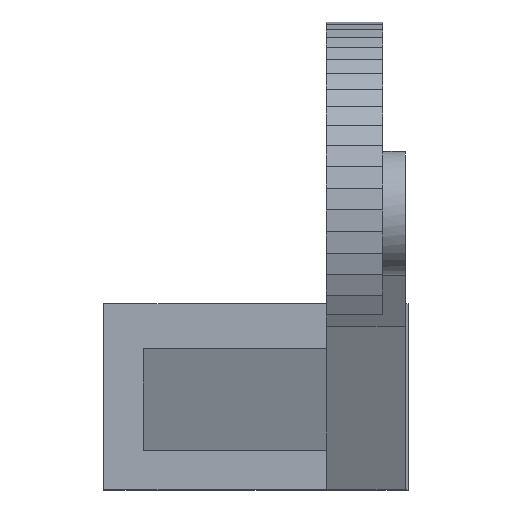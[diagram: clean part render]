
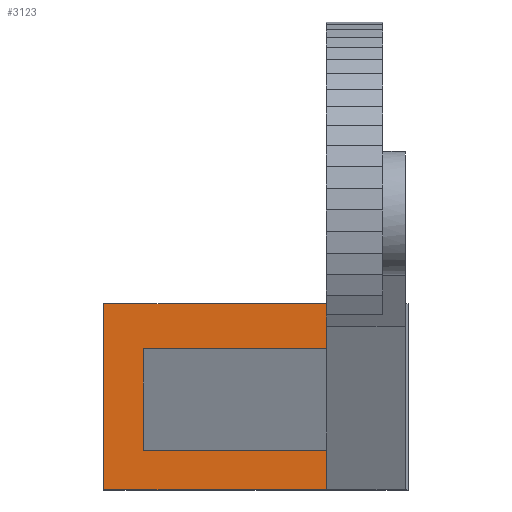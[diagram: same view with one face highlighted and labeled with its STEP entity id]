
A CAD part, top view. The second image highlights one B-rep face of the part: STEP entity #3123.
In plain terms, the highlighted planar face has unit normal (0, 0, 1).
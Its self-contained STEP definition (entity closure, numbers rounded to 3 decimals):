
#104 = PLANE('',#105);
#105 = AXIS2_PLACEMENT_3D('',#106,#107,#108);
#106 = CARTESIAN_POINT('',(6.5,0.,0.));
#107 = DIRECTION('',(1.,0.,0.));
#108 = DIRECTION('',(-0.,0.,1.));
#318 = PLANE('',#319);
#319 = AXIS2_PLACEMENT_3D('',#320,#321,#322);
#320 = CARTESIAN_POINT('',(6.5,-49.,-34.));
#321 = DIRECTION('',(0.,-1.,0.));
#322 = DIRECTION('',(0.,0.,1.));
#371 = PLANE('',#372);
#372 = AXIS2_PLACEMENT_3D('',#373,#374,#375);
#373 = CARTESIAN_POINT('',(-33.,-16.,-58.));
#374 = DIRECTION('',(0.,1.,0.));
#375 = DIRECTION('',(0.,0.,1.));
#609 = PLANE('',#610);
#610 = AXIS2_PLACEMENT_3D('',#611,#612,#613);
#611 = CARTESIAN_POINT('',(-27.,-24.,-30.5));
#612 = DIRECTION('',(-0.441,0.,0.898));
#613 = DIRECTION('',(0.898,0.,0.441));
#621 = VERTEX_POINT('',#622);
#622 = CARTESIAN_POINT('',(6.5,-24.,-30.));
#635 = PLANE('',#636);
#636 = AXIS2_PLACEMENT_3D('',#637,#638,#639);
#637 = CARTESIAN_POINT('',(-7.033,-24.,-25.417));
#638 = DIRECTION('',(0.,1.,0.));
#639 = DIRECTION('',(0.,-0.,1.));
#646 = EDGE_CURVE('',#647,#621,#649,.T.);
#647 = VERTEX_POINT('',#648);
#648 = CARTESIAN_POINT('',(6.5,-16.,-30.));
#649 = SURFACE_CURVE('',#650,(#654,#660),.PCURVE_S1.);
#650 = LINE('',#651,#652);
#651 = CARTESIAN_POINT('',(6.5,-24.5,-30.));
#652 = VECTOR('',#653,1.);
#653 = DIRECTION('',(0.,-1.,0.));
#654 = PCURVE('',#104,#655);
#655 = DEFINITIONAL_REPRESENTATION('',(#656),#659);
#656 = B_SPLINE_CURVE_WITH_KNOTS('',1,(#657,#658),.UNSPECIFIED.,.F.,.F.,
  (2,2),(-8.5,24.5),.PIECEWISE_BEZIER_KNOTS.);
#657 = CARTESIAN_POINT('',(-30.,16.));
#658 = CARTESIAN_POINT('',(-30.,49.));
#659 = ( GEOMETRIC_REPRESENTATION_CONTEXT(2) 
PARAMETRIC_REPRESENTATION_CONTEXT() REPRESENTATION_CONTEXT('2D SPACE',''
  ) );
#660 = PCURVE('',#661,#666);
#661 = PLANE('',#662);
#662 = AXIS2_PLACEMENT_3D('',#663,#664,#665);
#663 = CARTESIAN_POINT('',(-33.,-49.,-30.));
#664 = DIRECTION('',(0.,0.,1.));
#665 = DIRECTION('',(1.,0.,0.));
#666 = DEFINITIONAL_REPRESENTATION('',(#667),#670);
#667 = B_SPLINE_CURVE_WITH_KNOTS('',1,(#668,#669),.UNSPECIFIED.,.F.,.F.,
  (2,2),(-8.5,24.5),.PIECEWISE_BEZIER_KNOTS.);
#668 = CARTESIAN_POINT('',(39.5,33.));
#669 = CARTESIAN_POINT('',(39.5,0.));
#670 = ( GEOMETRIC_REPRESENTATION_CONTEXT(2) 
PARAMETRIC_REPRESENTATION_CONTEXT() REPRESENTATION_CONTEXT('2D SPACE',''
  ) );
#2033 = PLANE('',#2034);
#2034 = AXIS2_PLACEMENT_3D('',#2035,#2036,#2037);
#2035 = CARTESIAN_POINT('',(6.5,0.,0.));
#2036 = DIRECTION('',(1.,0.,0.));
#2037 = DIRECTION('',(-0.,0.,1.));
#2129 = PLANE('',#2130);
#2130 = AXIS2_PLACEMENT_3D('',#2131,#2132,#2133);
#2131 = CARTESIAN_POINT('',(-7.033,-42.,-25.417));
#2132 = DIRECTION('',(0.,1.,0.));
#2133 = DIRECTION('',(0.,-0.,1.));
#2202 = VERTEX_POINT('',#2203);
#2203 = CARTESIAN_POINT('',(-33.,-16.,-30.));
#2217 = PLANE('',#2218);
#2218 = AXIS2_PLACEMENT_3D('',#2219,#2220,#2221);
#2219 = CARTESIAN_POINT('',(-33.,-49.,-58.));
#2220 = DIRECTION('',(1.,0.,0.));
#2221 = DIRECTION('',(0.,0.,1.));
#2229 = EDGE_CURVE('',#2202,#647,#2230,.T.);
#2230 = SURFACE_CURVE('',#2231,(#2235,#2242),.PCURVE_S1.);
#2231 = LINE('',#2232,#2233);
#2232 = CARTESIAN_POINT('',(-33.,-16.,-30.));
#2233 = VECTOR('',#2234,1.);
#2234 = DIRECTION('',(1.,0.,0.));
#2235 = PCURVE('',#371,#2236);
#2236 = DEFINITIONAL_REPRESENTATION('',(#2237),#2241);
#2237 = LINE('',#2238,#2239);
#2238 = CARTESIAN_POINT('',(28.,0.));
#2239 = VECTOR('',#2240,1.);
#2240 = DIRECTION('',(0.,1.));
#2241 = ( GEOMETRIC_REPRESENTATION_CONTEXT(2) 
PARAMETRIC_REPRESENTATION_CONTEXT() REPRESENTATION_CONTEXT('2D SPACE',''
  ) );
#2242 = PCURVE('',#661,#2243);
#2243 = DEFINITIONAL_REPRESENTATION('',(#2244),#2248);
#2244 = LINE('',#2245,#2246);
#2245 = CARTESIAN_POINT('',(0.,33.));
#2246 = VECTOR('',#2247,1.);
#2247 = DIRECTION('',(1.,0.));
#2248 = ( GEOMETRIC_REPRESENTATION_CONTEXT(2) 
PARAMETRIC_REPRESENTATION_CONTEXT() REPRESENTATION_CONTEXT('2D SPACE',''
  ) );
#2278 = VERTEX_POINT('',#2279);
#2279 = CARTESIAN_POINT('',(6.5,-49.,-30.));
#2300 = EDGE_CURVE('',#2301,#2278,#2303,.T.);
#2301 = VERTEX_POINT('',#2302);
#2302 = CARTESIAN_POINT('',(-33.,-49.,-30.));
#2303 = SURFACE_CURVE('',#2304,(#2308,#2315),.PCURVE_S1.);
#2304 = LINE('',#2305,#2306);
#2305 = CARTESIAN_POINT('',(-33.,-49.,-30.));
#2306 = VECTOR('',#2307,1.);
#2307 = DIRECTION('',(1.,0.,0.));
#2308 = PCURVE('',#318,#2309);
#2309 = DEFINITIONAL_REPRESENTATION('',(#2310),#2314);
#2310 = LINE('',#2311,#2312);
#2311 = CARTESIAN_POINT('',(4.,39.5));
#2312 = VECTOR('',#2313,1.);
#2313 = DIRECTION('',(0.,-1.));
#2314 = ( GEOMETRIC_REPRESENTATION_CONTEXT(2) 
PARAMETRIC_REPRESENTATION_CONTEXT() REPRESENTATION_CONTEXT('2D SPACE',''
  ) );
#2315 = PCURVE('',#661,#2316);
#2316 = DEFINITIONAL_REPRESENTATION('',(#2317),#2321);
#2317 = LINE('',#2318,#2319);
#2318 = CARTESIAN_POINT('',(0.,0.));
#2319 = VECTOR('',#2320,1.);
#2320 = DIRECTION('',(1.,0.));
#2321 = ( GEOMETRIC_REPRESENTATION_CONTEXT(2) 
PARAMETRIC_REPRESENTATION_CONTEXT() REPRESENTATION_CONTEXT('2D SPACE',''
  ) );
#2957 = VERTEX_POINT('',#2958);
#2958 = CARTESIAN_POINT('',(-25.982,-24.,-30.));
#2979 = EDGE_CURVE('',#2957,#2980,#2982,.T.);
#2980 = VERTEX_POINT('',#2981);
#2981 = CARTESIAN_POINT('',(-25.982,-42.,-30.));
#2982 = SURFACE_CURVE('',#2983,(#2987,#2993),.PCURVE_S1.);
#2983 = LINE('',#2984,#2985);
#2984 = CARTESIAN_POINT('',(-25.982,-36.5,-30.));
#2985 = VECTOR('',#2986,1.);
#2986 = DIRECTION('',(0.,-1.,0.));
#2987 = PCURVE('',#609,#2988);
#2988 = DEFINITIONAL_REPRESENTATION('',(#2989),#2992);
#2989 = B_SPLINE_CURVE_WITH_KNOTS('',1,(#2990,#2991),.UNSPECIFIED.,.F.,
  .F.,(2,2),(-12.5,5.5),.PIECEWISE_BEZIER_KNOTS.);
#2990 = CARTESIAN_POINT('',(1.134,0.));
#2991 = CARTESIAN_POINT('',(1.134,-18.));
#2992 = ( GEOMETRIC_REPRESENTATION_CONTEXT(2) 
PARAMETRIC_REPRESENTATION_CONTEXT() REPRESENTATION_CONTEXT('2D SPACE',''
  ) );
#2993 = PCURVE('',#661,#2994);
#2994 = DEFINITIONAL_REPRESENTATION('',(#2995),#2998);
#2995 = B_SPLINE_CURVE_WITH_KNOTS('',1,(#2996,#2997),.UNSPECIFIED.,.F.,
  .F.,(2,2),(-12.5,5.5),.PIECEWISE_BEZIER_KNOTS.);
#2996 = CARTESIAN_POINT('',(7.018,25.));
#2997 = CARTESIAN_POINT('',(7.018,7.));
#2998 = ( GEOMETRIC_REPRESENTATION_CONTEXT(2) 
PARAMETRIC_REPRESENTATION_CONTEXT() REPRESENTATION_CONTEXT('2D SPACE',''
  ) );
#3076 = EDGE_CURVE('',#621,#2957,#3077,.T.);
#3077 = SURFACE_CURVE('',#3078,(#3082,#3088),.PCURVE_S1.);
#3078 = LINE('',#3079,#3080);
#3079 = CARTESIAN_POINT('',(-20.017,-24.,-30.));
#3080 = VECTOR('',#3081,1.);
#3081 = DIRECTION('',(-1.,0.,0.));
#3082 = PCURVE('',#635,#3083);
#3083 = DEFINITIONAL_REPRESENTATION('',(#3084),#3087);
#3084 = B_SPLINE_CURVE_WITH_KNOTS('',1,(#3085,#3086),.UNSPECIFIED.,.F.,
  .F.,(2,2),(-26.517,6.983),.PIECEWISE_BEZIER_KNOTS.);
#3085 = CARTESIAN_POINT('',(-4.583,13.533));
#3086 = CARTESIAN_POINT('',(-4.583,-19.967));
#3087 = ( GEOMETRIC_REPRESENTATION_CONTEXT(2) 
PARAMETRIC_REPRESENTATION_CONTEXT() REPRESENTATION_CONTEXT('2D SPACE',''
  ) );
#3088 = PCURVE('',#661,#3089);
#3089 = DEFINITIONAL_REPRESENTATION('',(#3090),#3093);
#3090 = B_SPLINE_CURVE_WITH_KNOTS('',1,(#3091,#3092),.UNSPECIFIED.,.F.,
  .F.,(2,2),(-26.517,6.983),.PIECEWISE_BEZIER_KNOTS.);
#3091 = CARTESIAN_POINT('',(39.5,25.));
#3092 = CARTESIAN_POINT('',(6.,25.));
#3093 = ( GEOMETRIC_REPRESENTATION_CONTEXT(2) 
PARAMETRIC_REPRESENTATION_CONTEXT() REPRESENTATION_CONTEXT('2D SPACE',''
  ) );
#3123 = ADVANCED_FACE('',(#3124),#661,.T.);
#3124 = FACE_BOUND('',#3125,.T.);
#3125 = EDGE_LOOP('',(#3126,#3127,#3148,#3149,#3170,#3189,#3190,#3191));
#3126 = ORIENTED_EDGE('',*,*,#2229,.F.);
#3127 = ORIENTED_EDGE('',*,*,#3128,.F.);
#3128 = EDGE_CURVE('',#2301,#2202,#3129,.T.);
#3129 = SURFACE_CURVE('',#3130,(#3134,#3141),.PCURVE_S1.);
#3130 = LINE('',#3131,#3132);
#3131 = CARTESIAN_POINT('',(-33.,-49.,-30.));
#3132 = VECTOR('',#3133,1.);
#3133 = DIRECTION('',(0.,1.,0.));
#3134 = PCURVE('',#661,#3135);
#3135 = DEFINITIONAL_REPRESENTATION('',(#3136),#3140);
#3136 = LINE('',#3137,#3138);
#3137 = CARTESIAN_POINT('',(0.,0.));
#3138 = VECTOR('',#3139,1.);
#3139 = DIRECTION('',(0.,1.));
#3140 = ( GEOMETRIC_REPRESENTATION_CONTEXT(2) 
PARAMETRIC_REPRESENTATION_CONTEXT() REPRESENTATION_CONTEXT('2D SPACE',''
  ) );
#3141 = PCURVE('',#2217,#3142);
#3142 = DEFINITIONAL_REPRESENTATION('',(#3143),#3147);
#3143 = LINE('',#3144,#3145);
#3144 = CARTESIAN_POINT('',(28.,0.));
#3145 = VECTOR('',#3146,1.);
#3146 = DIRECTION('',(0.,-1.));
#3147 = ( GEOMETRIC_REPRESENTATION_CONTEXT(2) 
PARAMETRIC_REPRESENTATION_CONTEXT() REPRESENTATION_CONTEXT('2D SPACE',''
  ) );
#3148 = ORIENTED_EDGE('',*,*,#2300,.T.);
#3149 = ORIENTED_EDGE('',*,*,#3150,.F.);
#3150 = EDGE_CURVE('',#3151,#2278,#3153,.T.);
#3151 = VERTEX_POINT('',#3152);
#3152 = CARTESIAN_POINT('',(6.5,-42.,-30.));
#3153 = SURFACE_CURVE('',#3154,(#3158,#3164),.PCURVE_S1.);
#3154 = LINE('',#3155,#3156);
#3155 = CARTESIAN_POINT('',(6.5,-24.5,-30.));
#3156 = VECTOR('',#3157,1.);
#3157 = DIRECTION('',(0.,-1.,0.));
#3158 = PCURVE('',#661,#3159);
#3159 = DEFINITIONAL_REPRESENTATION('',(#3160),#3163);
#3160 = B_SPLINE_CURVE_WITH_KNOTS('',1,(#3161,#3162),.UNSPECIFIED.,.F.,
  .F.,(2,2),(-8.5,24.5),.PIECEWISE_BEZIER_KNOTS.);
#3161 = CARTESIAN_POINT('',(39.5,33.));
#3162 = CARTESIAN_POINT('',(39.5,0.));
#3163 = ( GEOMETRIC_REPRESENTATION_CONTEXT(2) 
PARAMETRIC_REPRESENTATION_CONTEXT() REPRESENTATION_CONTEXT('2D SPACE',''
  ) );
#3164 = PCURVE('',#2033,#3165);
#3165 = DEFINITIONAL_REPRESENTATION('',(#3166),#3169);
#3166 = B_SPLINE_CURVE_WITH_KNOTS('',1,(#3167,#3168),.UNSPECIFIED.,.F.,
  .F.,(2,2),(-8.5,24.5),.PIECEWISE_BEZIER_KNOTS.);
#3167 = CARTESIAN_POINT('',(-30.,16.));
#3168 = CARTESIAN_POINT('',(-30.,49.));
#3169 = ( GEOMETRIC_REPRESENTATION_CONTEXT(2) 
PARAMETRIC_REPRESENTATION_CONTEXT() REPRESENTATION_CONTEXT('2D SPACE',''
  ) );
#3170 = ORIENTED_EDGE('',*,*,#3171,.T.);
#3171 = EDGE_CURVE('',#3151,#2980,#3172,.T.);
#3172 = SURFACE_CURVE('',#3173,(#3177,#3183),.PCURVE_S1.);
#3173 = LINE('',#3174,#3175);
#3174 = CARTESIAN_POINT('',(-20.017,-42.,-30.));
#3175 = VECTOR('',#3176,1.);
#3176 = DIRECTION('',(-1.,0.,0.));
#3177 = PCURVE('',#661,#3178);
#3178 = DEFINITIONAL_REPRESENTATION('',(#3179),#3182);
#3179 = B_SPLINE_CURVE_WITH_KNOTS('',1,(#3180,#3181),.UNSPECIFIED.,.F.,
  .F.,(2,2),(-26.517,6.983),.PIECEWISE_BEZIER_KNOTS.);
#3180 = CARTESIAN_POINT('',(39.5,7.));
#3181 = CARTESIAN_POINT('',(6.,7.));
#3182 = ( GEOMETRIC_REPRESENTATION_CONTEXT(2) 
PARAMETRIC_REPRESENTATION_CONTEXT() REPRESENTATION_CONTEXT('2D SPACE',''
  ) );
#3183 = PCURVE('',#2129,#3184);
#3184 = DEFINITIONAL_REPRESENTATION('',(#3185),#3188);
#3185 = B_SPLINE_CURVE_WITH_KNOTS('',1,(#3186,#3187),.UNSPECIFIED.,.F.,
  .F.,(2,2),(-26.517,6.983),.PIECEWISE_BEZIER_KNOTS.);
#3186 = CARTESIAN_POINT('',(-4.583,13.533));
#3187 = CARTESIAN_POINT('',(-4.583,-19.967));
#3188 = ( GEOMETRIC_REPRESENTATION_CONTEXT(2) 
PARAMETRIC_REPRESENTATION_CONTEXT() REPRESENTATION_CONTEXT('2D SPACE',''
  ) );
#3189 = ORIENTED_EDGE('',*,*,#2979,.F.);
#3190 = ORIENTED_EDGE('',*,*,#3076,.F.);
#3191 = ORIENTED_EDGE('',*,*,#646,.F.);
